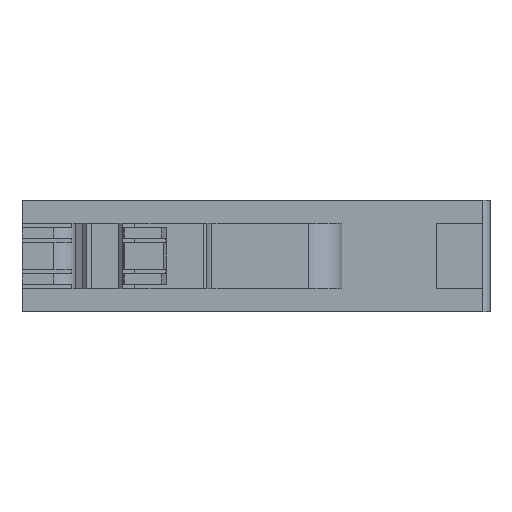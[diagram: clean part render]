
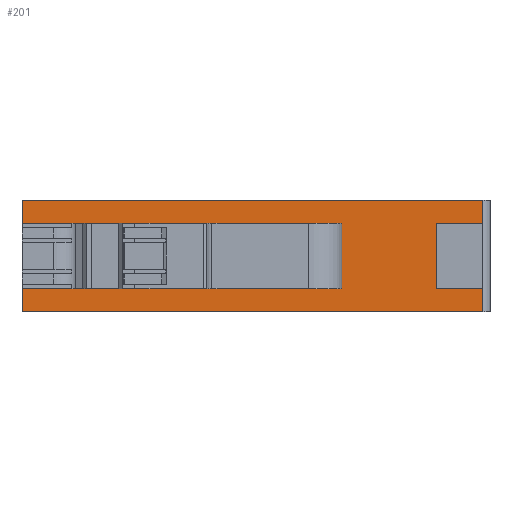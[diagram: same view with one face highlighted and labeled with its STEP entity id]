
A CAD part, front view. The second image highlights one B-rep face of the part: STEP entity #201.
In plain terms, the highlighted planar face has unit normal (0, -1, 0).
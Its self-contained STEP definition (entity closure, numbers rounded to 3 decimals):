
#201=ADVANCED_FACE('',(#447),#336,.T.);
#336=PLANE('',#2823);
#447=FACE_OUTER_BOUND('',#578,.T.);
#578=EDGE_LOOP('',(#724,#725,#726,#727,#728,#729,#730,#731,#732,#733,#734,
#735));
#724=ORIENTED_EDGE('',*,*,#1768,.T.);
#725=ORIENTED_EDGE('',*,*,#1769,.F.);
#726=ORIENTED_EDGE('',*,*,#1770,.F.);
#727=ORIENTED_EDGE('',*,*,#1771,.F.);
#728=ORIENTED_EDGE('',*,*,#1772,.F.);
#729=ORIENTED_EDGE('',*,*,#1773,.F.);
#730=ORIENTED_EDGE('',*,*,#1774,.F.);
#731=ORIENTED_EDGE('',*,*,#1775,.T.);
#732=ORIENTED_EDGE('',*,*,#1776,.F.);
#733=ORIENTED_EDGE('',*,*,#1777,.F.);
#734=ORIENTED_EDGE('',*,*,#1778,.F.);
#735=ORIENTED_EDGE('',*,*,#1779,.T.);
#1506=VERTEX_POINT('',#3745);
#1507=VERTEX_POINT('',#3746);
#1508=VERTEX_POINT('',#3748);
#1509=VERTEX_POINT('',#3750);
#1510=VERTEX_POINT('',#3752);
#1511=VERTEX_POINT('',#3754);
#1512=VERTEX_POINT('',#3756);
#1513=VERTEX_POINT('',#3758);
#1514=VERTEX_POINT('',#3760);
#1515=VERTEX_POINT('',#3762);
#1516=VERTEX_POINT('',#3764);
#1517=VERTEX_POINT('',#3766);
#1768=EDGE_CURVE('',#1506,#1507,#2159,.T.);
#1769=EDGE_CURVE('',#1508,#1507,#2160,.T.);
#1770=EDGE_CURVE('',#1509,#1508,#2161,.T.);
#1771=EDGE_CURVE('',#1510,#1509,#2162,.T.);
#1772=EDGE_CURVE('',#1511,#1510,#2163,.T.);
#1773=EDGE_CURVE('',#1512,#1511,#2164,.T.);
#1774=EDGE_CURVE('',#1513,#1512,#2165,.T.);
#1775=EDGE_CURVE('',#1513,#1514,#2166,.T.);
#1776=EDGE_CURVE('',#1515,#1514,#2167,.T.);
#1777=EDGE_CURVE('',#1516,#1515,#2168,.T.);
#1778=EDGE_CURVE('',#1517,#1516,#2169,.T.);
#1779=EDGE_CURVE('',#1517,#1506,#2170,.T.);
#2159=LINE('',#3744,#2494);
#2160=LINE('',#3747,#2495);
#2161=LINE('',#3749,#2496);
#2162=LINE('',#3751,#2497);
#2163=LINE('',#3753,#2498);
#2164=LINE('',#3755,#2499);
#2165=LINE('',#3757,#2500);
#2166=LINE('',#3759,#2501);
#2167=LINE('',#3761,#2502);
#2168=LINE('',#3763,#2503);
#2169=LINE('',#3765,#2504);
#2170=LINE('',#3767,#2505);
#2494=VECTOR('',#3023,1.);
#2495=VECTOR('',#3024,1.);
#2496=VECTOR('',#3025,1.);
#2497=VECTOR('',#3026,1.);
#2498=VECTOR('',#3027,1.);
#2499=VECTOR('',#3028,1.);
#2500=VECTOR('',#3029,1.);
#2501=VECTOR('',#3030,1.);
#2502=VECTOR('',#3031,1.);
#2503=VECTOR('',#3032,1.);
#2504=VECTOR('',#3033,1.);
#2505=VECTOR('',#3034,1.);
#2823=AXIS2_PLACEMENT_3D('',#3768,#3035,#3036);
#3023=DIRECTION('',(0.,0.,1.));
#3024=DIRECTION('',(-1.,0.,0.));
#3025=DIRECTION('',(0.,0.,-1.));
#3026=DIRECTION('',(1.,0.,0.));
#3027=DIRECTION('',(0.,0.,1.));
#3028=DIRECTION('',(-1.,0.,0.));
#3029=DIRECTION('',(0.,0.,1.));
#3030=DIRECTION('',(-1.,0.,0.));
#3031=DIRECTION('',(0.,0.,1.));
#3032=DIRECTION('',(-1.,0.,0.));
#3033=DIRECTION('',(0.,0.,-1.));
#3034=DIRECTION('',(-1.,0.,0.));
#3035=DIRECTION('',(0.,-1.,0.));
#3036=DIRECTION('',(0.,0.,-1.));
#3744=CARTESIAN_POINT('',(7160.49,1431.108,-15.2));
#3745=CARTESIAN_POINT('',(7160.49,1431.108,-8.1));
#3746=CARTESIAN_POINT('',(7160.49,1431.108,-2.1));
#3747=CARTESIAN_POINT('',(7193.277,1431.108,-2.1));
#3748=CARTESIAN_POINT('',(7164.69,1431.108,-2.1));
#3749=CARTESIAN_POINT('',(7164.69,1431.108,-15.2));
#3750=CARTESIAN_POINT('',(7164.69,1431.108,0.));
#3751=CARTESIAN_POINT('',(7149.213,1431.108,0.));
#3752=CARTESIAN_POINT('',(7122.64,1431.108,0.));
#3753=CARTESIAN_POINT('',(7122.64,1431.108,-15.2));
#3754=CARTESIAN_POINT('',(7122.64,1431.108,-2.1));
#3755=CARTESIAN_POINT('',(7193.277,1431.108,-2.1));
#3756=CARTESIAN_POINT('',(7149.213,1431.108,-2.1));
#3757=CARTESIAN_POINT('',(7149.213,1431.108,-15.2));
#3758=CARTESIAN_POINT('',(7149.213,1431.108,-8.1));
#3759=CARTESIAN_POINT('',(7193.277,1431.108,-8.1));
#3760=CARTESIAN_POINT('',(7122.64,1431.108,-8.1));
#3761=CARTESIAN_POINT('',(7122.64,1431.108,-15.2));
#3762=CARTESIAN_POINT('',(7122.64,1431.108,-10.2));
#3763=CARTESIAN_POINT('',(7193.277,1431.108,-10.2));
#3764=CARTESIAN_POINT('',(7164.69,1431.108,-10.2));
#3765=CARTESIAN_POINT('',(7164.69,1431.108,-15.2));
#3766=CARTESIAN_POINT('',(7164.69,1431.108,-8.1));
#3767=CARTESIAN_POINT('',(7193.277,1431.108,-8.1));
#3768=CARTESIAN_POINT('',(7149.213,1431.108,-15.2));
